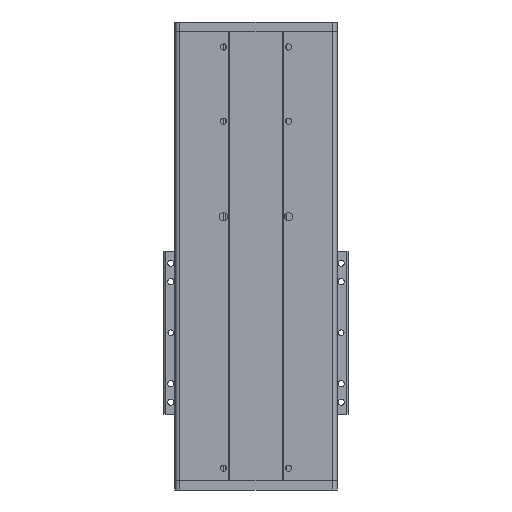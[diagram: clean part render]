
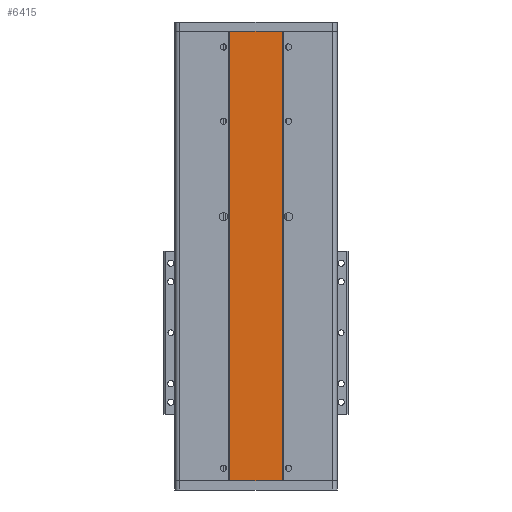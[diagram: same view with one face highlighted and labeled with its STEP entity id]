
A CAD part, front view. The second image highlights one B-rep face of the part: STEP entity #6415.
In plain terms, the highlighted planar face has unit normal (0, -1, 0).
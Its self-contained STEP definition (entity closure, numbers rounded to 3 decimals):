
#148 = PLANE ( 'NONE',  #32331 ) ;
#416 = EDGE_CURVE ( 'NONE', #8083, #15921, #13575, .T. ) ;
#494 = ORIENTED_EDGE ( 'NONE', *, *, #15029, .T. ) ;
#876 = ORIENTED_EDGE ( 'NONE', *, *, #25739, .F. ) ;
#1989 = ORIENTED_EDGE ( 'NONE', *, *, #416, .T. ) ;
#2099 = DIRECTION ( 'NONE',  ( 0., 0., 1. ) ) ;
#2496 = DIRECTION ( 'NONE',  ( -1., 0., 0. ) ) ;
#3272 = CARTESIAN_POINT ( 'NONE',  ( 1.27, -85.314, -1395. ) ) ;
#4240 = VECTOR ( 'NONE', #33930, 1000. ) ;
#4247 = CARTESIAN_POINT ( 'NONE',  ( 58.27, -85.314, 0. ) ) ;
#6328 = CARTESIAN_POINT ( 'NONE',  ( 58.27, -85.314, 485. ) ) ;
#6415 = ADVANCED_FACE ( 'NONE', ( #26997 ), #148, .F. ) ;
#6485 = DIRECTION ( 'NONE',  ( 0., 0., 1. ) ) ;
#8083 = VERTEX_POINT ( 'NONE', #4247 ) ;
#8842 = CARTESIAN_POINT ( 'NONE',  ( 1.27, -85.314, 485. ) ) ;
#10832 = EDGE_CURVE ( 'NONE', #8083, #40339, #13027, .T. ) ;
#11552 = LINE ( 'NONE', #8842, #35620 ) ;
#13027 = LINE ( 'NONE', #24427, #38077 ) ;
#13575 = LINE ( 'NONE', #37111, #4240 ) ;
#15029 = EDGE_CURVE ( 'NONE', #15921, #20343, #11552, .T. ) ;
#15921 = VERTEX_POINT ( 'NONE', #6328 ) ;
#16852 = EDGE_LOOP ( 'NONE', ( #1989, #494, #876, #18682 ) ) ;
#18682 = ORIENTED_EDGE ( 'NONE', *, *, #10832, .F. ) ;
#20343 = VERTEX_POINT ( 'NONE', #29015 ) ;
#24427 = CARTESIAN_POINT ( 'NONE',  ( 0., -85.314, 0. ) ) ;
#25206 = DIRECTION ( 'NONE',  ( 0., 1., 0. ) ) ;
#25739 = EDGE_CURVE ( 'NONE', #40339, #20343, #33210, .T. ) ;
#26997 = FACE_OUTER_BOUND ( 'NONE', #16852, .T. ) ;
#27618 = DIRECTION ( 'NONE',  ( -1., 0., 0. ) ) ;
#29015 = CARTESIAN_POINT ( 'NONE',  ( 1.27, -85.314, 485. ) ) ;
#30247 = VECTOR ( 'NONE', #2099, 1000. ) ;
#31677 = CARTESIAN_POINT ( 'NONE',  ( 1.27, -85.314, 0. ) ) ;
#32331 = AXIS2_PLACEMENT_3D ( 'NONE', #3272, #25206, #6485 ) ;
#32748 = CARTESIAN_POINT ( 'NONE',  ( 1.27, -85.314, -1395. ) ) ;
#33210 = LINE ( 'NONE', #32748, #30247 ) ;
#33930 = DIRECTION ( 'NONE',  ( 0., 0., 1. ) ) ;
#35620 = VECTOR ( 'NONE', #27618, 1000. ) ;
#37111 = CARTESIAN_POINT ( 'NONE',  ( 58.27, -85.314, -1395. ) ) ;
#38077 = VECTOR ( 'NONE', #2496, 1000. ) ;
#40339 = VERTEX_POINT ( 'NONE', #31677 ) ;
